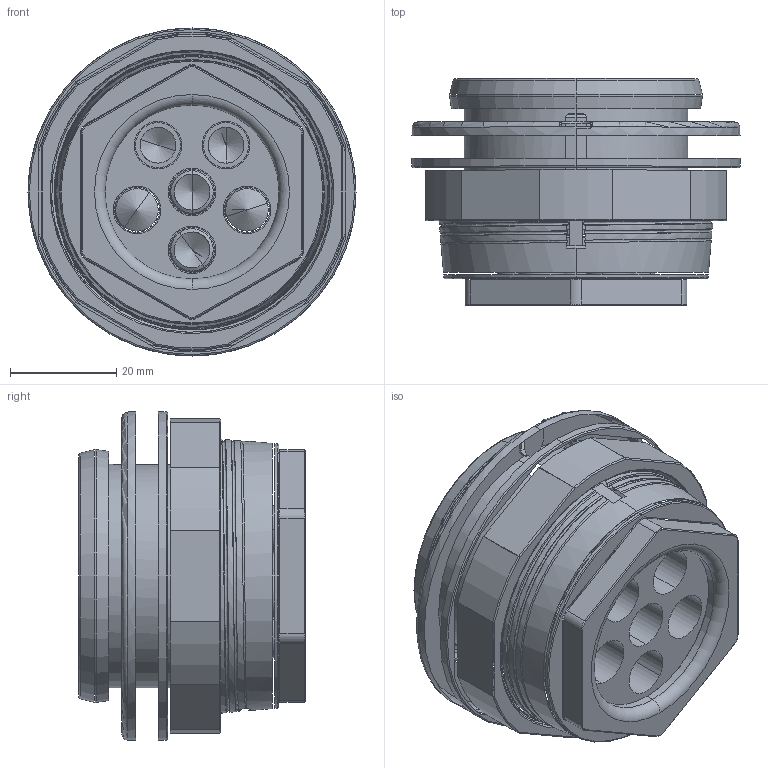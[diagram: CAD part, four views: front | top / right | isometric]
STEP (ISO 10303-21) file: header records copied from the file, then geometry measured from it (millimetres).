
FILE_DESCRIPTION((''),'2;1');
FILE_NAME('LCN-EC8X6-BHF_ASM','2025-08-01T10:50:50',('Neil'),(''),'CREO PARAMETRIC BY PTC INC, 2023134','CREO PARAMETRIC BY PTC INC, 2023134','');
FILE_SCHEMA(('CONFIG_CONTROL_DESIGN'));
Length unit declared in the file: millimetre
Products named in the file (1): LCN-EC8X6-BHF_ASM
Bounding box: 61.8 x 42.71 x 61.8 mm (x, y, z)
Surface area: 21243.4 mm2 (no closed solid volume)
Topology: 0 solids, 37 shells, 224 faces, 740 edges, 530 vertices
Faces by surface type: cylinder 75, cone 70, plane 30, torus 26, bspline 23
Entity records: 16162 total; most frequent: CARTESIAN_POINT 10130, DIRECTION 1264, ORIENTED_EDGE 1045, EDGE_CURVE 720, VERTEX_POINT 530, AXIS2_PLACEMENT_3D 519, CIRCLE 317, EDGE_LOOP 254
